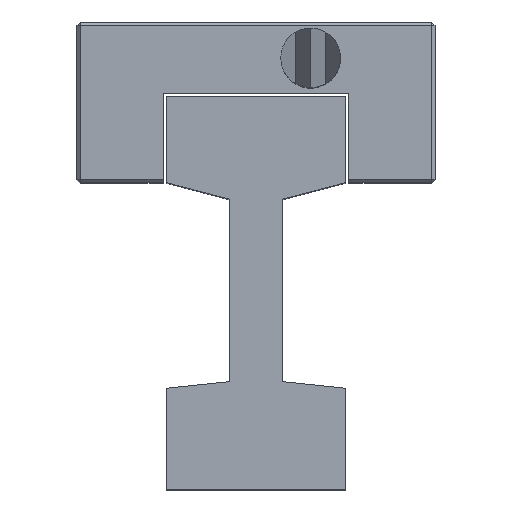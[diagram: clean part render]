
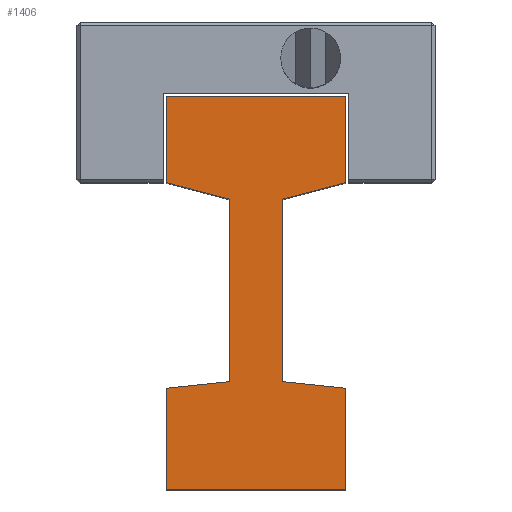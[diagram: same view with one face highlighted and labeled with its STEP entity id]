
A CAD part, top view. The second image highlights one B-rep face of the part: STEP entity #1406.
In plain terms, the highlighted planar face has unit normal (0, 0, 1).
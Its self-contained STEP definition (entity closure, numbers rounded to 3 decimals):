
#612 = VERTEX_POINT ( 'NONE', #2358 ) ;
#664 = DIRECTION ( 'NONE',  ( 0., -1., 0. ) ) ;
#707 = DIRECTION ( 'NONE',  ( -0.995, 0.105, 0. ) ) ;
#708 = CARTESIAN_POINT ( 'NONE',  ( -5.4, -5.2, 0. ) ) ;
#791 = VECTOR ( 'NONE', #15242, 1000. ) ;
#1146 = CARTESIAN_POINT ( 'NONE',  ( -5.4, -23.7, 0. ) ) ;
#1406 = ADVANCED_FACE ( 'NONE', ( #32086 ), #16279, .T. ) ;
#2009 = CARTESIAN_POINT ( 'NONE',  ( -5.4, -23.7, 0. ) ) ;
#2037 = ORIENTED_EDGE ( 'NONE', *, *, #27797, .T. ) ;
#2063 = LINE ( 'NONE', #26024, #23056 ) ;
#2358 = CARTESIAN_POINT ( 'NONE',  ( -1.6, -6.2, 0. ) ) ;
#2772 = CARTESIAN_POINT ( 'NONE',  ( 5.4, -5.2, 0. ) ) ;
#2857 = ORIENTED_EDGE ( 'NONE', *, *, #32119, .T. ) ;
#3232 = DIRECTION ( 'NONE',  ( 0.967, -0.254, 0. ) ) ;
#3490 = VERTEX_POINT ( 'NONE', #5328 ) ;
#3667 = DIRECTION ( 'NONE',  ( 0., 0., 1. ) ) ;
#4071 = VERTEX_POINT ( 'NONE', #15945 ) ;
#4376 = VECTOR ( 'NONE', #707, 1000. ) ;
#4594 = EDGE_CURVE ( 'NONE', #6514, #612, #10129, .T. ) ;
#4601 = CARTESIAN_POINT ( 'NONE',  ( -5.4, 0., 0. ) ) ;
#4837 = CARTESIAN_POINT ( 'NONE',  ( -1.6, -17.2, 0. ) ) ;
#4959 = VERTEX_POINT ( 'NONE', #7786 ) ;
#5328 = CARTESIAN_POINT ( 'NONE',  ( 1.6, -6.2, 0. ) ) ;
#6298 = DIRECTION ( 'NONE',  ( 0.967, 0.254, 0. ) ) ;
#6487 = CARTESIAN_POINT ( 'NONE',  ( 5.4, 0., 0. ) ) ;
#6514 = VERTEX_POINT ( 'NONE', #29971 ) ;
#6624 = LINE ( 'NONE', #8361, #26859 ) ;
#7131 = DIRECTION ( 'NONE',  ( 0., -1., 0. ) ) ;
#7168 = LINE ( 'NONE', #6487, #19851 ) ;
#7462 = VERTEX_POINT ( 'NONE', #4837 ) ;
#7786 = CARTESIAN_POINT ( 'NONE',  ( -5.4, -17.6, 0. ) ) ;
#7855 = VECTOR ( 'NONE', #6298, 1000. ) ;
#8340 = ORIENTED_EDGE ( 'NONE', *, *, #24869, .T. ) ;
#8361 = CARTESIAN_POINT ( 'NONE',  ( -1.6, -17.2, 0. ) ) ;
#8664 = CARTESIAN_POINT ( 'NONE',  ( -5.4, -23.7, 0. ) ) ;
#8677 = LINE ( 'NONE', #13637, #14611 ) ;
#8753 = VERTEX_POINT ( 'NONE', #11925 ) ;
#8986 = ORIENTED_EDGE ( 'NONE', *, *, #16867, .T. ) ;
#9035 = DIRECTION ( 'NONE',  ( -1., 0., 0. ) ) ;
#9497 = ORIENTED_EDGE ( 'NONE', *, *, #32069, .T. ) ;
#10053 = ORIENTED_EDGE ( 'NONE', *, *, #24961, .T. ) ;
#10129 = LINE ( 'NONE', #708, #22842 ) ;
#10629 = LINE ( 'NONE', #8664, #29304 ) ;
#10841 = CARTESIAN_POINT ( 'NONE',  ( 5.4, 0., 0. ) ) ;
#11220 = DIRECTION ( 'NONE',  ( 1., 0., 0. ) ) ;
#11376 = ORIENTED_EDGE ( 'NONE', *, *, #27350, .T. ) ;
#11554 = VERTEX_POINT ( 'NONE', #25000 ) ;
#11925 = CARTESIAN_POINT ( 'NONE',  ( 1.6, -17.2, 0. ) ) ;
#12684 = CARTESIAN_POINT ( 'NONE',  ( 1.6, -6.2, 0. ) ) ;
#13015 = LINE ( 'NONE', #29058, #7855 ) ;
#13279 = CARTESIAN_POINT ( 'NONE',  ( 1.6, -17.2, 0. ) ) ;
#13637 = CARTESIAN_POINT ( 'NONE',  ( -5.4, -17.6, 0. ) ) ;
#13861 = LINE ( 'NONE', #4601, #14645 ) ;
#14611 = VECTOR ( 'NONE', #16187, 1000. ) ;
#14645 = VECTOR ( 'NONE', #7131, 1000. ) ;
#15096 = EDGE_LOOP ( 'NONE', ( #27889, #26279, #18381, #22857, #11376, #8986, #8340, #9497, #2037, #20745, #2857, #10053 ) ) ;
#15242 = DIRECTION ( 'NONE',  ( 0., 1., 0. ) ) ;
#15798 = DIRECTION ( 'NONE',  ( -0.995, -0.105, 0. ) ) ;
#15945 = CARTESIAN_POINT ( 'NONE',  ( 5.4, 0., 0. ) ) ;
#16187 = DIRECTION ( 'NONE',  ( 0., -1., 0. ) ) ;
#16279 = PLANE ( 'NONE',  #29434 ) ;
#16867 = EDGE_CURVE ( 'NONE', #25954, #11554, #10629, .T. ) ;
#17690 = EDGE_CURVE ( 'NONE', #7462, #4959, #6624, .T. ) ;
#17734 = VERTEX_POINT ( 'NONE', #31363 ) ;
#17839 = VECTOR ( 'NONE', #26040, 1000. ) ;
#18381 = ORIENTED_EDGE ( 'NONE', *, *, #26491, .T. ) ;
#19851 = VECTOR ( 'NONE', #9035, 1000. ) ;
#20745 = ORIENTED_EDGE ( 'NONE', *, *, #27502, .T. ) ;
#21374 = DIRECTION ( 'NONE',  ( 1., 0., 0. ) ) ;
#22404 = CARTESIAN_POINT ( 'NONE',  ( 5.4, -17.6, 0. ) ) ;
#22447 = VERTEX_POINT ( 'NONE', #2772 ) ;
#22842 = VECTOR ( 'NONE', #3232, 1000. ) ;
#22857 = ORIENTED_EDGE ( 'NONE', *, *, #17690, .T. ) ;
#23056 = VECTOR ( 'NONE', #28915, 1000. ) ;
#24869 = EDGE_CURVE ( 'NONE', #11554, #25414, #2063, .T. ) ;
#24961 = EDGE_CURVE ( 'NONE', #4071, #17734, #7168, .T. ) ;
#25000 = CARTESIAN_POINT ( 'NONE',  ( 5.4, -23.7, 0. ) ) ;
#25368 = LINE ( 'NONE', #13279, #4376 ) ;
#25414 = VERTEX_POINT ( 'NONE', #22404 ) ;
#25954 = VERTEX_POINT ( 'NONE', #2009 ) ;
#26024 = CARTESIAN_POINT ( 'NONE',  ( 5.4, -17.6, 0. ) ) ;
#26040 = DIRECTION ( 'NONE',  ( 0., 1., 0. ) ) ;
#26279 = ORIENTED_EDGE ( 'NONE', *, *, #4594, .T. ) ;
#26491 = EDGE_CURVE ( 'NONE', #612, #7462, #31378, .T. ) ;
#26685 = EDGE_CURVE ( 'NONE', #17734, #6514, #13861, .T. ) ;
#26859 = VECTOR ( 'NONE', #15798, 1000. ) ;
#27350 = EDGE_CURVE ( 'NONE', #4959, #25954, #8677, .T. ) ;
#27502 = EDGE_CURVE ( 'NONE', #3490, #22447, #13015, .T. ) ;
#27696 = LINE ( 'NONE', #12684, #791 ) ;
#27797 = EDGE_CURVE ( 'NONE', #8753, #3490, #27696, .T. ) ;
#27889 = ORIENTED_EDGE ( 'NONE', *, *, #26685, .T. ) ;
#27998 = CARTESIAN_POINT ( 'NONE',  ( -1.6, -6.2, 0. ) ) ;
#28915 = DIRECTION ( 'NONE',  ( 0., 1., 0. ) ) ;
#29058 = CARTESIAN_POINT ( 'NONE',  ( 5.4, -5.2, 0. ) ) ;
#29304 = VECTOR ( 'NONE', #11220, 1000. ) ;
#29434 = AXIS2_PLACEMENT_3D ( 'NONE', #1146, #3667, #21374 ) ;
#29971 = CARTESIAN_POINT ( 'NONE',  ( -5.4, -5.2, 0. ) ) ;
#30560 = VECTOR ( 'NONE', #664, 1000. ) ;
#30567 = LINE ( 'NONE', #10841, #17839 ) ;
#31363 = CARTESIAN_POINT ( 'NONE',  ( -5.4, 0., 0. ) ) ;
#31378 = LINE ( 'NONE', #27998, #30560 ) ;
#32069 = EDGE_CURVE ( 'NONE', #25414, #8753, #25368, .T. ) ;
#32086 = FACE_OUTER_BOUND ( 'NONE', #15096, .T. ) ;
#32119 = EDGE_CURVE ( 'NONE', #22447, #4071, #30567, .T. ) ;
